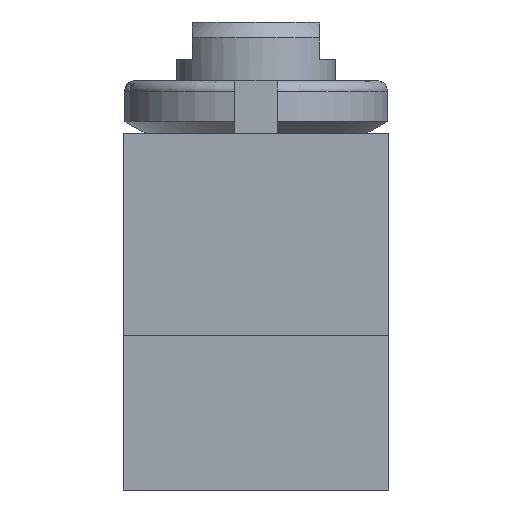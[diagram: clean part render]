
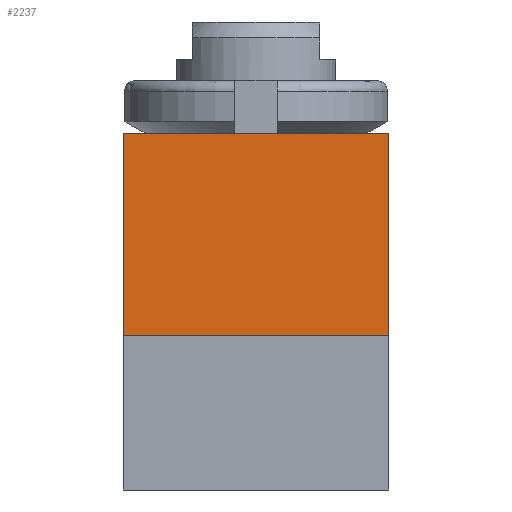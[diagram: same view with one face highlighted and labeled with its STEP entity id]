
A CAD part, left-side view. The second image highlights one B-rep face of the part: STEP entity #2237.
In plain terms, the highlighted planar face has unit normal (-1, 0, 0).
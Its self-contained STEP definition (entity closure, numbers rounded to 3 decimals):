
#262=LINE('',#3986,#380);
#269=LINE('',#4027,#387);
#271=LINE('',#4031,#389);
#272=LINE('',#4033,#390);
#380=VECTOR('',#3110,25.);
#387=VECTOR('',#3159,19.);
#389=VECTOR('',#3163,25.);
#390=VECTOR('',#3166,19.);
#456=PLANE('',#2509);
#686=FACE_OUTER_BOUND('',#916,.T.);
#916=EDGE_LOOP('',(#2047,#2048,#2049,#2050));
#1223=VERTEX_POINT('',#3983);
#1224=VERTEX_POINT('',#3985);
#1237=VERTEX_POINT('',#4025);
#1238=VERTEX_POINT('',#4029);
#1490=EDGE_CURVE('',#1223,#1224,#262,.T.);
#1507=EDGE_CURVE('',#1237,#1223,#269,.T.);
#1509=EDGE_CURVE('',#1237,#1238,#271,.T.);
#1510=EDGE_CURVE('',#1224,#1238,#272,.T.);
#2047=ORIENTED_EDGE('',*,*,#1509,.T.);
#2048=ORIENTED_EDGE('',*,*,#1510,.F.);
#2049=ORIENTED_EDGE('',*,*,#1490,.F.);
#2050=ORIENTED_EDGE('',*,*,#1507,.F.);
#2237=ADVANCED_FACE('',(#686),#456,.T.);
#2509=AXIS2_PLACEMENT_3D('',#4032,#3164,#3165);
#3110=DIRECTION('',(0.,1.,0.));
#3159=DIRECTION('',(0.,0.,-1.));
#3163=DIRECTION('',(0.,1.,0.));
#3164=DIRECTION('center_axis',(-1.,0.,0.));
#3165=DIRECTION('ref_axis',(0.,0.,1.));
#3166=DIRECTION('',(0.,0.,1.));
#3983=CARTESIAN_POINT('',(-12.5,-12.5,0.));
#3985=CARTESIAN_POINT('',(-12.5,12.5,0.));
#3986=CARTESIAN_POINT('',(-12.5,0.,0.));
#4025=CARTESIAN_POINT('',(-12.5,-12.5,19.));
#4027=CARTESIAN_POINT('',(-12.5,-12.5,0.));
#4029=CARTESIAN_POINT('',(-12.5,12.5,19.));
#4031=CARTESIAN_POINT('',(-12.5,0.,19.));
#4032=CARTESIAN_POINT('Origin',(-12.5,0.,0.));
#4033=CARTESIAN_POINT('',(-12.5,12.5,0.));
